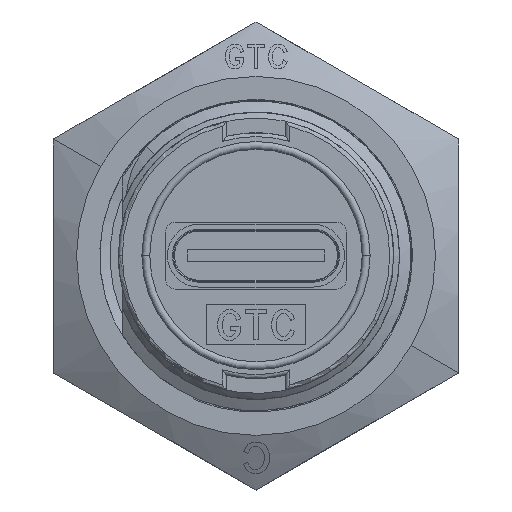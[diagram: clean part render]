
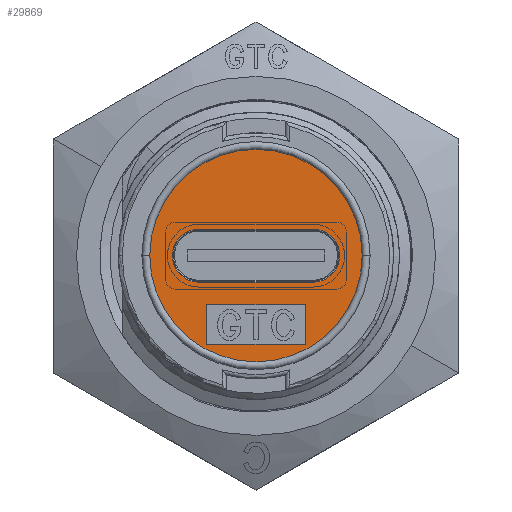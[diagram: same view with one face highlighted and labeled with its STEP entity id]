
A CAD part, top view. The second image highlights one B-rep face of the part: STEP entity #29869.
In plain terms, the highlighted planar face has unit normal (0, 0, 1).
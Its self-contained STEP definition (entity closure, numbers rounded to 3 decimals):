
#44 = ORIENTED_EDGE ( 'NONE', *, *, #13998, .F. ) ;
#235 = CARTESIAN_POINT ( 'NONE',  ( 2.9, 0., 16. ) ) ;
#433 = ORIENTED_EDGE ( 'NONE', *, *, #18224, .T. ) ;
#440 = EDGE_CURVE ( 'NONE', #3482, #19887, #1318, .T. ) ;
#665 = PLANE ( 'NONE',  #5595 ) ;
#1318 = LINE ( 'NONE', #10545, #4189 ) ;
#1376 = DIRECTION ( 'NONE',  ( 1., 0., 0. ) ) ;
#1893 = CARTESIAN_POINT ( 'NONE',  ( 2.9, -1.35, 16. ) ) ;
#1970 = LINE ( 'NONE', #18114, #6025 ) ;
#2707 = ORIENTED_EDGE ( 'NONE', *, *, #14584, .T. ) ;
#3312 = EDGE_CURVE ( 'NONE', #24176, #3482, #25988, .T. ) ;
#3482 = VERTEX_POINT ( 'NONE', #10306 ) ;
#3936 = CARTESIAN_POINT ( 'NONE',  ( 0., 0., 16. ) ) ;
#4103 = DIRECTION ( 'NONE',  ( 0., 1., 0. ) ) ;
#4189 = VECTOR ( 'NONE', #12342, 1000. ) ;
#4405 = VECTOR ( 'NONE', #12102, 1000. ) ;
#4976 = CIRCLE ( 'NONE', #22354, 1.35 ) ;
#5301 = CARTESIAN_POINT ( 'NONE',  ( 2.5, -2.5, 16. ) ) ;
#5356 = FACE_OUTER_BOUND ( 'NONE', #7832, .T. ) ;
#5595 = AXIS2_PLACEMENT_3D ( 'NONE', #9906, #23171, #13953 ) ;
#5631 = VERTEX_POINT ( 'NONE', #19348 ) ;
#5828 = CIRCLE ( 'NONE', #18811, 1.35 ) ;
#6025 = VECTOR ( 'NONE', #4103, 1000. ) ;
#6186 = ORIENTED_EDGE ( 'NONE', *, *, #440, .F. ) ;
#6440 = VECTOR ( 'NONE', #7868, 1000. ) ;
#7410 = DIRECTION ( 'NONE',  ( -1., 0., 0. ) ) ;
#7738 = AXIS2_PLACEMENT_3D ( 'NONE', #3936, #28711, #1376 ) ;
#7832 = EDGE_LOOP ( 'NONE', ( #17176, #17450 ) ) ;
#7853 = AXIS2_PLACEMENT_3D ( 'NONE', #8735, #13546, #13263 ) ;
#7868 = DIRECTION ( 'NONE',  ( 1., 0., 0. ) ) ;
#8474 = VERTEX_POINT ( 'NONE', #8866 ) ;
#8685 = VECTOR ( 'NONE', #20049, 1000. ) ;
#8735 = CARTESIAN_POINT ( 'NONE',  ( -2.9, 0., 16. ) ) ;
#8784 = DIRECTION ( 'NONE',  ( -1., 0., 0. ) ) ;
#8866 = CARTESIAN_POINT ( 'NONE',  ( -4.25, 0., 16. ) ) ;
#9235 = VERTEX_POINT ( 'NONE', #21352 ) ;
#9479 = CARTESIAN_POINT ( 'NONE',  ( -2.5, -4.5, 16. ) ) ;
#9906 = CARTESIAN_POINT ( 'NONE',  ( 0., 6.25, 16. ) ) ;
#10128 = CARTESIAN_POINT ( 'NONE',  ( -2.9, 0., 16. ) ) ;
#10306 = CARTESIAN_POINT ( 'NONE',  ( -2.5, -2.5, 16. ) ) ;
#10476 = EDGE_LOOP ( 'NONE', ( #17915, #14465, #44, #6186 ) ) ;
#10545 = CARTESIAN_POINT ( 'NONE',  ( -2.5, -2.5, 16. ) ) ;
#10871 = LINE ( 'NONE', #15077, #8685 ) ;
#11267 = VERTEX_POINT ( 'NONE', #19279 ) ;
#11492 = CARTESIAN_POINT ( 'NONE',  ( 2.9, 1.35, 16. ) ) ;
#12102 = DIRECTION ( 'NONE',  ( -1., 0., 0. ) ) ;
#12228 = DIRECTION ( 'NONE',  ( 0., 0., -1. ) ) ;
#12272 = DIRECTION ( 'NONE',  ( 1., 0., 0. ) ) ;
#12342 = DIRECTION ( 'NONE',  ( 0., -1., 0. ) ) ;
#13035 = CIRCLE ( 'NONE', #7738, 5.4 ) ;
#13263 = DIRECTION ( 'NONE',  ( -1., 0., 0. ) ) ;
#13284 = EDGE_CURVE ( 'NONE', #28137, #15235, #17014, .T. ) ;
#13546 = DIRECTION ( 'NONE',  ( 0., 0., -1. ) ) ;
#13953 = DIRECTION ( 'NONE',  ( -1., 0., 0. ) ) ;
#13998 = EDGE_CURVE ( 'NONE', #19887, #11267, #24144, .T. ) ;
#14343 = CARTESIAN_POINT ( 'NONE',  ( -2.5, -2.5, 16. ) ) ;
#14368 = CARTESIAN_POINT ( 'NONE',  ( 0., 1.35, 16. ) ) ;
#14465 = ORIENTED_EDGE ( 'NONE', *, *, #17852, .F. ) ;
#14584 = EDGE_CURVE ( 'NONE', #8474, #9235, #4976, .T. ) ;
#15077 = CARTESIAN_POINT ( 'NONE',  ( 0., -1.35, 16. ) ) ;
#15235 = VERTEX_POINT ( 'NONE', #16068 ) ;
#15515 = VECTOR ( 'NONE', #12272, 1000. ) ;
#15533 = CIRCLE ( 'NONE', #7853, 1.35 ) ;
#16068 = CARTESIAN_POINT ( 'NONE',  ( 5.4, 0., 16. ) ) ;
#16321 = VERTEX_POINT ( 'NONE', #11492 ) ;
#16502 = CARTESIAN_POINT ( 'NONE',  ( 0., 0., 16. ) ) ;
#16631 = LINE ( 'NONE', #14368, #15515 ) ;
#16649 = DIRECTION ( 'NONE',  ( 1., 0., 0. ) ) ;
#16661 = FACE_BOUND ( 'NONE', #20477, .T. ) ;
#17014 = CIRCLE ( 'NONE', #23772, 5.4 ) ;
#17176 = ORIENTED_EDGE ( 'NONE', *, *, #13284, .T. ) ;
#17450 = ORIENTED_EDGE ( 'NONE', *, *, #25061, .T. ) ;
#17489 = ORIENTED_EDGE ( 'NONE', *, *, #18762, .T. ) ;
#17658 = ORIENTED_EDGE ( 'NONE', *, *, #21966, .T. ) ;
#17852 = EDGE_CURVE ( 'NONE', #11267, #24176, #1970, .T. ) ;
#17915 = ORIENTED_EDGE ( 'NONE', *, *, #3312, .F. ) ;
#18114 = CARTESIAN_POINT ( 'NONE',  ( 2.5, -2.5, 16. ) ) ;
#18224 = EDGE_CURVE ( 'NONE', #9235, #16321, #16631, .T. ) ;
#18762 = EDGE_CURVE ( 'NONE', #5631, #8474, #15533, .T. ) ;
#18811 = AXIS2_PLACEMENT_3D ( 'NONE', #235, #20225, #8784 ) ;
#19279 = CARTESIAN_POINT ( 'NONE',  ( 2.5, -4.5, 16. ) ) ;
#19348 = CARTESIAN_POINT ( 'NONE',  ( -2.9, -1.35, 16. ) ) ;
#19887 = VERTEX_POINT ( 'NONE', #9479 ) ;
#20049 = DIRECTION ( 'NONE',  ( -1., 0., 0. ) ) ;
#20225 = DIRECTION ( 'NONE',  ( 0., 0., -1. ) ) ;
#20477 = EDGE_LOOP ( 'NONE', ( #28735, #17658, #17489, #2707, #433 ) ) ;
#21347 = DIRECTION ( 'NONE',  ( 0., 0., 1. ) ) ;
#21352 = CARTESIAN_POINT ( 'NONE',  ( -2.9, 1.35, 16. ) ) ;
#21966 = EDGE_CURVE ( 'NONE', #23513, #5631, #10871, .T. ) ;
#22029 = CARTESIAN_POINT ( 'NONE',  ( -2.5, -4.5, 16. ) ) ;
#22354 = AXIS2_PLACEMENT_3D ( 'NONE', #10128, #12228, #7410 ) ;
#23171 = DIRECTION ( 'NONE',  ( 0., 0., -1. ) ) ;
#23513 = VERTEX_POINT ( 'NONE', #1893 ) ;
#23772 = AXIS2_PLACEMENT_3D ( 'NONE', #16502, #21347, #16649 ) ;
#24144 = LINE ( 'NONE', #22029, #6440 ) ;
#24176 = VERTEX_POINT ( 'NONE', #5301 ) ;
#24462 = EDGE_CURVE ( 'NONE', #16321, #23513, #5828, .T. ) ;
#25061 = EDGE_CURVE ( 'NONE', #15235, #28137, #13035, .T. ) ;
#25898 = FACE_BOUND ( 'NONE', #10476, .T. ) ;
#25988 = LINE ( 'NONE', #14343, #4405 ) ;
#26765 = CARTESIAN_POINT ( 'NONE',  ( -5.4, 0., 16. ) ) ;
#28137 = VERTEX_POINT ( 'NONE', #26765 ) ;
#28711 = DIRECTION ( 'NONE',  ( 0., 0., 1. ) ) ;
#28735 = ORIENTED_EDGE ( 'NONE', *, *, #24462, .T. ) ;
#29869 = ADVANCED_FACE ( 'NONE', ( #16661, #5356, #25898 ), #665, .F. ) ;
